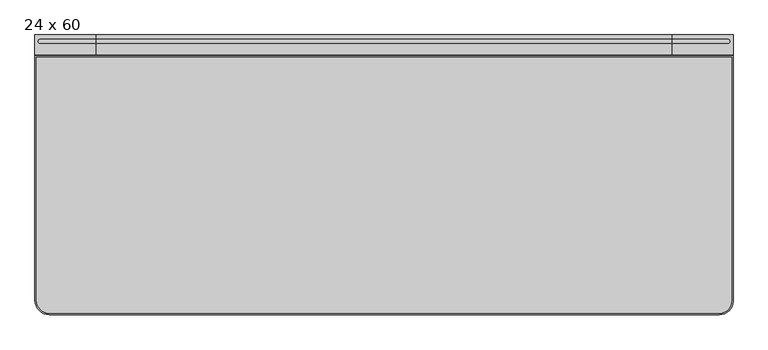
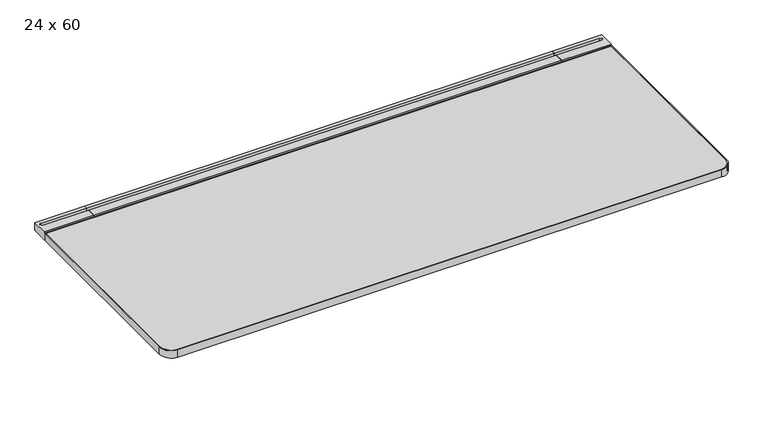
"""IFC4 building model written with IfcOpenShell, lengths in millimetres: furniture geometry, Steelcase - C Scape - Desking - Straight : 24 x 60."""

from ifc_helpers import new_model, si_unit, point, frame, frame_2d, origin, place, context, project, spatial, polyline, circle_curve, trimmed, segment, composite_curve, outline, extrude, faceted_brep, source, transform, mapped, element, save
from ifc_brep_helpers import plane_surface, cylinder_surface, revolved_surface, advanced_brep


def furniture_24_x_60_ce3a3083(model_context):
    return source(origin(), model_context, "Body", "SolidModel", [
        advanced_brep(
        [(1389.4562243, -45.3135132, 703.3768), (1389.4562243, -45.3135132, 722.4268341), (1389.4562243, -42.7750923, 722.4268341), (1389.4562243, -42.7750923, 725.932), (1389.4562243, -19.3290527, 725.932), (1389.4562243, -19.3290527, 713.486), (1389.4562243, -8.5111084, 713.486), (1389.4562243, -8.5111084, 725.932), (1389.4562243, 0.0, 725.932), (1389.4562243, 0.0, 705.1038636), (1389.4562243, -3.2278472, 705.1038636), (1389.4562243, -4.0331902, 703.3768), (1522.4760119, -45.3135132, 703.3768), (1522.4760119, -4.0331902, 703.3768), (1522.4760119, -3.2278472, 705.1038636), (1522.4760119, 0.0, 705.1038636), (1522.4760119, 0.0, 725.932), (1522.4760119, -42.7750923, 725.932), (1522.4760119, -42.7750923, 722.4268341), (1522.4760119, -45.3135132, 722.4268341), (1510.7139392, -8.5111084, 725.932), (1510.7139392, -19.3290527, 725.932), (1510.7139392, -19.3290527, 713.486), (1510.7139392, -8.5111084, 713.486)],
        [
            (0, 1),
            (1, 2),
            (2, 3),
            (3, 4),
            (4, 5),
            (5, 6),
            (6, 7),
            (7, 8),
            (8, 9),
            (9, 10),
            (10, 11),
            (11, 0),
            (12, 13),
            (13, 14),
            (14, 15),
            (15, 16),
            (16, 17),
            (17, 18),
            (18, 19),
            (19, 12),
            (11, 13),
            (12, 0),
            (10, 14),
            (9, 15),
            (8, 16),
            (7, 20),
            (20, 21, circle_curve(frame((1510.7139392, -13.9200806, 725.932), z_axis=(0.0, 0.0, -1.0), x_axis=(-1.0, 0.0, 0.0)), 5.4089722)),
            (21, 4),
            (3, 17),
            (2, 18),
            (1, 19),
            (5, 22),
            (22, 23, circle_curve(frame((1510.7139392, -13.9200806, 713.486), z_axis=(0.0, 0.0, 1.0), x_axis=(-1.0, 0.0, 0.0)), 5.4089722)),
            (23, 6),
            (23, 20),
            (22, 21),
        ],
        [
            plane_surface(frame((1389.4562243, -45.3135132, 703.3768), z_axis=(-1.0, 0.0, 0.0), x_axis=(0.0, 1.0, 0.0))),
            plane_surface(frame((1522.4760119, -45.3135132, 703.3768), z_axis=(1.0, 0.0, 0.0), x_axis=(0.0, -1.0, 0.0))),
            plane_surface(frame((1389.4562243, -45.3135132, 703.3768), z_axis=(0.0, 0.0, -1.0), x_axis=(1.0, 0.0, 0.0))),
            plane_surface(frame((1389.4562243, -4.0331902, 703.3768), z_axis=(0.0, 0.9063077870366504, -0.4226182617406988), x_axis=(1.0, 0.0, 0.0))),
            plane_surface(frame((1389.4562243, -3.2278472, 705.1038636), z_axis=(0.0, 0.0, -1.0), x_axis=(1.0, 0.0, 0.0))),
            plane_surface(frame((1389.4562243, 0.0, 705.1038636), z_axis=(0.0, 1.0, 0.0), x_axis=(1.0, 0.0, 0.0))),
            plane_surface(frame((1389.4562243, 0.0, 725.932), z_axis=(0.0, 0.0, 1.0), x_axis=(1.0, 0.0, 0.0))),
            plane_surface(frame((1389.4562243, -42.7750923, 725.932), z_axis=(0.0, -1.0, 0.0), x_axis=(1.0, 0.0, 0.0))),
            plane_surface(frame((1389.4562243, -42.7750923, 722.4268341), z_axis=(0.0, 0.0, 1.0), x_axis=(1.0, 0.0, 0.0))),
            plane_surface(frame((1389.4562243, -45.3135132, 722.4268341), z_axis=(0.0, -1.0, 0.0), x_axis=(1.0, 0.0, 0.0))),
            plane_surface(frame((1510.7139392, -8.5111084, 713.486), z_axis=(0.0, 0.0, 1.0), x_axis=(-1.0, 0.0, 0.0))),
            plane_surface(frame((1389.4562243, -8.5111084, 731.2180541), z_axis=(0.0, -1.0, 0.0), x_axis=(0.0, 0.0, -1.0))),
            revolved_surface(polyline([(1505.3049669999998, -13.9200806, 725.932), (1505.3049669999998, -13.9200806, 713.486)]), (1510.7139392, -13.9200806, 713.486), (0.0, 0.0, 1.0)),
            plane_surface(frame((1510.7139392, -19.3290527, 731.2180541), z_axis=(0.0, 1.0, 0.0), x_axis=(0.0, 0.0, -1.0))),
        ],
        [
            (0, [[1, 2, 3, 4, 5, 6, 7, 8, 9, 10, 11, 12]]),
            (1, [[13, 14, 15, 16, 17, 18, 19, 20]]),
            (2, [[21, -13, 22, -12]]),
            (3, [[23, -14, -21, -11]]),
            (4, [[24, -15, -23, -10]]),
            (5, [[25, -16, -24, -9]]),
            (6, [[-25, -8, 26, 27, 28, -4, 29, -17]]),
            (7, [[30, -18, -29, -3]]),
            (8, [[31, -19, -30, -2]]),
            (9, [[-22, -20, -31, -1]]),
            (10, [[-6, 32, 33, 34]]),
            (11, [[35, -26, -7, -34]]),
            (12, [[36, -27, -35, -33]]),
            (13, [[-5, -28, -36, -32]]),
        ],
    ),
        faceted_brep([(1503.4252487, -565.0752923, 700.7093833), (1503.4252487, -565.0752923, 703.3768), (1389.4562243, -565.0752923, 703.3768), (1389.4562243, -565.0752923, 679.3263935), (1405.0903818, -565.0752923, 679.3263935), (1407.710924, -565.0752923, 693.4200291), (1489.1501391, -565.0752923, 693.4200291), (1503.4252487, -4.0331902, 700.7093833), (1489.1501391, -4.0331902, 693.4200291), (1407.710924, -4.0331902, 693.4200291), (1395.8046772, -4.0331902, 629.3866), (1389.4562243, -4.0331902, 629.3866), (1389.4562243, -4.0331902, 703.3768), (1503.4252487, -4.0331902, 703.3768), (1402.9251068, -376.5599397, 667.6812472), (1395.8046772, -364.1172546, 629.3866), (1389.4562243, -364.1172546, 629.3866), (1389.4562243, -376.5599397, 667.6812472)], [[[0, 1, 2, 3, 4, 5, 6]], [[7, 8, 9, 10, 11, 12, 13]], [[6, 8, 7, 0]], [[5, 9, 8, 6]], [[9, 5, 4, 14, 15, 10]], [[10, 15, 16, 11]], [[11, 16, 17, 3, 2, 12]], [[1, 13, 12, 2]], [[0, 7, 13, 1]], [[14, 4, 3, 17]], [[17, 16, 15, 14]]]),
        extrude(outline(composite_curve([segment(polyline([(-293.5216187, 657.3775839), (-559.0022133, 680.1371551)]), True, "CONTINUOUS"), segment(trimmed(circle_curve(frame_2d((-558.7581271, 682.9843154)), 2.8576039), [point((-559.0022133, 680.1371551))], [point((-561.5383043, 682.3236226))], False, "CARTESIAN"), True, "CONTINUOUS"), segment(polyline([(-561.5383043, 682.3236226), (-566.0887542, 701.4717905), (-557.8334441, 701.4717905), (-557.8334441, 703.3768), (-442.6683806, 703.3768), (-442.6683806, 696.3917953), (-318.2108611, 696.3917953), (-318.2108611, 703.3768), (-293.5216187, 703.3768), (-293.5216187, 657.3775839)]), True, "CONTINUOUS")], self_intersect=False)), frame((725.424, 0.0, 0.0), z_axis=(1.0, 0.0, 0.0), x_axis=(0.0, 1.0, 0.0)), (0.0, 0.0, 1.0), 73.152),
        advanced_brep(
        [(134.6072876, -45.3135132, 703.3768), (134.6072876, -4.0331902, 703.3768), (134.6072876, -3.2278472, 705.1038636), (134.6072876, 0.0, 705.1038636), (134.6072876, 0.0, 725.932), (134.6072876, -8.5111084, 725.932), (134.6072876, -8.5111084, 713.486), (134.6072876, -19.3290527, 713.486), (134.6072876, -19.3290527, 725.932), (134.6072876, -42.7750923, 725.932), (134.6072876, -42.7750923, 722.4268341), (134.6072876, -45.3135132, 722.4268341), (1.5875, -45.3135132, 703.3768), (1.5875, -45.3135132, 722.4268341), (1.5875, -42.7750923, 722.4268341), (1.5875, -42.7750923, 725.932), (1.5875, 0.0, 725.932), (1.5875, 0.0, 705.1038636), (1.5875, -3.2278472, 705.1038636), (1.5875, -4.0331902, 703.3768), (13.3495728, -19.3290527, 725.932), (13.3495728, -8.5111084, 725.932), (13.3495728, -8.5111084, 713.486), (13.3495728, -19.3290527, 713.486)],
        [
            (0, 1),
            (1, 2),
            (2, 3),
            (3, 4),
            (4, 5),
            (5, 6),
            (6, 7),
            (7, 8),
            (8, 9),
            (9, 10),
            (10, 11),
            (11, 0),
            (12, 13),
            (13, 14),
            (14, 15),
            (15, 16),
            (16, 17),
            (17, 18),
            (18, 19),
            (19, 12),
            (0, 12),
            (19, 1),
            (18, 2),
            (17, 3),
            (16, 4),
            (15, 9),
            (8, 20),
            (20, 21, circle_curve(frame((13.3495728, -13.9200806, 725.932), z_axis=(0.0, 0.0, -1.0), x_axis=(1.0, 0.0, 0.0)), 5.4089722)),
            (21, 5),
            (14, 10),
            (13, 11),
            (6, 22),
            (22, 23, circle_curve(frame((13.3495728, -13.9200806, 713.486), z_axis=(0.0, 0.0, 1.0), x_axis=(1.0, 0.0, 0.0)), 5.4089722)),
            (23, 7),
            (21, 22),
            (20, 23),
        ],
        [
            plane_surface(frame((134.6072876, -45.3135132, 703.3768), z_axis=(1.0, 0.0, 0.0), x_axis=(0.0, 1.0, 0.0))),
            plane_surface(frame((1.5875, -45.3135132, 703.3768), z_axis=(-1.0, 0.0, 0.0), x_axis=(0.0, -1.0, 0.0))),
            plane_surface(frame((134.6072876, -45.3135132, 703.3768), z_axis=(0.0, 0.0, -1.0), x_axis=(-1.0, 0.0, 0.0))),
            plane_surface(frame((134.6072876, -4.0331902, 703.3768), z_axis=(0.0, 0.9063077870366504, -0.4226182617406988), x_axis=(-1.0, 0.0, 0.0))),
            plane_surface(frame((134.6072876, -3.2278472, 705.1038636), z_axis=(0.0, 0.0, -1.0), x_axis=(-1.0, 0.0, 0.0))),
            plane_surface(frame((134.6072876, 0.0, 705.1038636), z_axis=(0.0, 1.0, 0.0), x_axis=(-1.0, 0.0, 0.0))),
            plane_surface(frame((134.6072876, 0.0, 725.932), z_axis=(0.0, 0.0, 1.0), x_axis=(-1.0, 0.0, 0.0))),
            plane_surface(frame((134.6072876, -42.7750923, 725.932), z_axis=(0.0, -1.0, 0.0), x_axis=(-1.0, 0.0, 0.0))),
            plane_surface(frame((134.6072876, -42.7750923, 722.4268341), z_axis=(0.0, 0.0, 1.0), x_axis=(-1.0, 0.0, 0.0))),
            plane_surface(frame((134.6072876, -45.3135132, 722.4268341), z_axis=(0.0, -1.0, 0.0), x_axis=(-1.0, 0.0, 0.0))),
            plane_surface(frame((13.3495728, -8.5111084, 713.486), z_axis=(0.0, 0.0, 1.0), x_axis=(1.0, 0.0, 0.0))),
            plane_surface(frame((134.6072876, -8.5111084, 731.2180541), z_axis=(0.0, -1.0, 0.0), x_axis=(0.0, 0.0, -1.0))),
            revolved_surface(polyline([(18.758545, -13.9200806, 725.932), (18.758545, -13.9200806, 713.486)]), (13.3495728, -13.9200806, 713.486), (0.0, 0.0, 1.0)),
            plane_surface(frame((13.3495728, -19.3290527, 731.2180541), z_axis=(0.0, 1.0, 0.0), x_axis=(0.0, 0.0, -1.0))),
        ],
        [
            (0, [[1, 2, 3, 4, 5, 6, 7, 8, 9, 10, 11, 12]]),
            (1, [[13, 14, 15, 16, 17, 18, 19, 20]]),
            (2, [[-1, 21, -20, 22]]),
            (3, [[-2, -22, -19, 23]]),
            (4, [[-3, -23, -18, 24]]),
            (5, [[-4, -24, -17, 25]]),
            (6, [[-16, 26, -9, 27, 28, 29, -5, -25]]),
            (7, [[-10, -26, -15, 30]]),
            (8, [[-11, -30, -14, 31]]),
            (9, [[-12, -31, -13, -21]]),
            (10, [[32, 33, 34, -7]]),
            (11, [[-32, -6, -29, 35]]),
            (12, [[-33, -35, -28, 36]]),
            (13, [[-34, -36, -27, -8]]),
        ],
    ),
        faceted_brep([(20.6382632, -565.0752923, 700.7093833), (34.9133728, -565.0752923, 693.4200291), (116.3525879, -565.0752923, 693.4200291), (118.9731301, -565.0752923, 679.3263935), (134.6072876, -565.0752923, 679.3263935), (134.6072876, -565.0752923, 703.3768), (20.6382632, -565.0752923, 703.3768), (20.6382632, -4.0331902, 700.7093833), (20.6382632, -4.0331902, 703.3768), (134.6072876, -4.0331902, 703.3768), (134.6072876, -4.0331902, 629.3866), (128.2588347, -4.0331902, 629.3866), (116.3525879, -4.0331902, 693.4200291), (34.9133728, -4.0331902, 693.4200291), (128.2588347, -364.1172546, 629.3866), (121.1384051, -376.5599397, 667.6812472), (134.6072876, -364.1172546, 629.3866), (134.6072876, -376.5599397, 667.6812472)], [[[0, 1, 2, 3, 4, 5, 6]], [[7, 8, 9, 10, 11, 12, 13]], [[1, 0, 7, 13]], [[2, 1, 13, 12]], [[12, 11, 14, 15, 3, 2]], [[11, 10, 16, 14]], [[10, 9, 5, 4, 17, 16]], [[6, 5, 9, 8]], [[0, 6, 8, 7]], [[15, 17, 4, 3]], [[17, 15, 14, 16]]]),
        extrude(outline(polyline([(-8.5111084, 725.932), (0.0, 725.932), (0.0, 705.1038636), (-3.2278472, 705.1038636), (-4.0331902, 703.3768), (-45.3135132, 703.3768), (-45.3135132, 722.4268341), (-42.7750923, 722.4268341), (-42.7750923, 725.932), (-19.3290527, 725.932), (-19.3290527, 713.486), (-8.5111084, 713.486), (-8.5111084, 725.932)])), frame((134.6072876, 0.0, 0.0), z_axis=(1.0, 0.0, 0.0), x_axis=(0.0, 1.0, 0.0)), (0.0, 0.0, 1.0), 1254.8489367),
        extrude(outline(polyline([(134.6072876, -293.5216187), (134.6072876, -4.0331902), (1389.4562243, -4.0331902), (1389.4562243, -293.5216187), (134.6072876, -293.5216187)])), frame((0.0, 0.0, 629.3866), z_axis=(0.0, 0.0, 1.0), x_axis=(1.0, 0.0, 0.0)), (0.0, 0.0, 1.0), 73.9902),
        advanced_brep(
        [(4.6355, -48.3660689, 723.9), (4.6355, -577.85, 723.9), (33.3375, -606.5490234, 723.9), (1492.6737019, -606.5490234, 723.9), (1519.4273608, -579.7953645, 723.9), (1519.4273608, -48.3660689, 723.9), (4.6355, -48.3660689, 703.3768), (1519.4273608, -48.3660689, 703.3768), (1519.4273608, -579.7953645, 703.3768), (1492.6737019, -606.5490234, 703.3768), (33.3375, -606.5490234, 703.3768), (4.6384766, -577.85, 703.3768)],
        [
            (0, 1),
            (1, 2, circle_curve(frame((33.3375, -577.85, 723.9), z_axis=(0.0, 0.0, 1.0), x_axis=(1.0, 0.0, 0.0)), 28.6990234)),
            (2, 3),
            (3, 4, circle_curve(frame((1492.6737019, -579.7953645, 723.9), z_axis=(0.0, 0.0, 1.0), x_axis=(1.0, 0.0, 0.0)), 26.7536589)),
            (4, 5),
            (5, 0),
            (6, 7),
            (7, 8),
            (8, 9, circle_curve(frame((1492.6737019, -579.7953645, 703.3768), z_axis=(0.0, 0.0, -1.0), x_axis=(1.0, 0.0, 0.0)), 26.7536589)),
            (9, 10),
            (10, 11, circle_curve(frame((33.3375, -577.85, 703.3768), z_axis=(0.0, 0.0, -1.0), x_axis=(1.0, 0.0, 0.0)), 28.6990234)),
            (11, 6),
            (0, 6),
            (11, 1),
            (10, 2),
            (9, 3),
            (8, 4),
            (7, 5),
        ],
        [
            plane_surface(frame((4.6355, -48.3660689, 723.9), z_axis=(0.0, 0.0, 1.0), x_axis=(0.0, -1.0, 0.0))),
            plane_surface(frame((4.6355, -48.3660689, 703.3768), z_axis=(0.0, 0.0, -1.0), x_axis=(0.0, 1.0, 0.0))),
            plane_surface(frame((4.6355, -48.3660689, 723.9), z_axis=(-1.0, 0.0, 0.0), x_axis=(0.0, 0.0, -1.0))),
            cylinder_surface(frame((33.3375, -577.85, 703.3768), z_axis=(0.0, 0.0, 1.0), x_axis=(1.0, 0.0, 0.0)), 28.6990234),
            plane_surface(frame((33.3375, -606.5490234, 723.9), z_axis=(0.0, -1.0, 0.0), x_axis=(0.0, 0.0, -1.0))),
            cylinder_surface(frame((1492.6737019, -579.7953645, 703.3768), z_axis=(0.0, 0.0, 1.0), x_axis=(1.0, 0.0, 0.0)), 26.7536589),
            plane_surface(frame((1519.4273608, -579.7953645, 723.9), z_axis=(1.0, 0.0, 0.0), x_axis=(0.0, 0.0, -1.0))),
            plane_surface(frame((1519.4273608, -48.3660689, 723.9), z_axis=(0.0, 1.0, 0.0), x_axis=(0.0, 0.0, -1.0))),
        ],
        [
            (0, [[1, 2, 3, 4, 5, 6]]),
            (1, [[7, 8, 9, 10, 11, 12]]),
            (2, [[-1, 13, -12, 14]]),
            (3, [[-2, -14, -11, 15]]),
            (4, [[-3, -15, -10, 16]]),
            (5, [[-4, -16, -9, 17]]),
            (6, [[-5, -17, -8, 18]]),
            (7, [[-6, -18, -7, -13]]),
        ],
    ),
        extrude(outline(composite_curve([segment(trimmed(circle_curve(frame_2d((33.3375, -577.85)), 31.75), [point((33.3375, -609.6))], [point((1.5875, -577.85))], False, "CARTESIAN"), True, "CONTINUOUS"), segment(polyline([(1.5875, -577.85), (1.5875, -45.3150923), (1522.476, -45.3150923), (1522.476, -579.7250374)]), True, "CONTINUOUS"), segment(trimmed(circle_curve(frame_2d((1492.6010374, -579.7250374)), 29.8749626), [point((1522.476, -579.7250374))], [point((1492.6010374, -609.6))], False, "CARTESIAN"), True, "CONTINUOUS"), segment(polyline([(1492.6010374, -609.6), (33.3375, -609.6)]), True, "CONTINUOUS")], self_intersect=False), holes=[composite_curve([segment(polyline([(1519.4250234, -48.3660689), (4.6384766, -48.3660689), (4.6384766, -577.85)]), True, "CONTINUOUS"), segment(trimmed(circle_curve(frame_2d((33.3375, -577.85)), 28.6990234), [point((4.6384766, -577.85))], [point((33.3375, -606.5490234))], True, "CARTESIAN"), True, "CONTINUOUS"), segment(polyline([(33.3375, -606.5490234), (1492.6010374, -606.5490234)]), True, "CONTINUOUS"), segment(trimmed(circle_curve(frame_2d((1492.6010374, -579.7250374)), 26.8239861), [point((1492.6010374, -606.5490234))], [point((1519.4250234, -579.7250374))], True, "CARTESIAN"), True, "CONTINUOUS"), segment(polyline([(1519.4250234, -579.7250374), (1519.4250234, -48.3660689)]), True, "CONTINUOUS")], self_intersect=False)]), frame((0.0, 0.0, 703.3768), z_axis=(0.0, 0.0, 1.0), x_axis=(1.0, 0.0, 0.0)), (0.0, 0.0, 1.0), 20.5232),
    ])


if __name__ == "__main__":
    model = new_model("IFC4")
    model_context = context("Model", 3, world=origin())
    ifc_project = project(units=[si_unit("LENGTHUNIT", "METRE", prefix="MILLI")], contexts=[model_context])
    site = spatial("IfcSite", under=ifc_project)
    building = spatial("IfcBuilding", under=site)
    placement = place(None, origin())
    furniture_24_x_60_shape = furniture_24_x_60_ce3a3083(model_context)
    element("IfcFurniture", 1, ObjectType="Steelcase - C Scape - Desking - Straight : 24 x 60", at=placement, inside=building, context=model_context, shape_type="MappedRepresentation", body=[
        mapped(furniture_24_x_60_shape, transform((0.0, 0.0, 0.0), x_axis=(1.0, 0.0, 0.0), y_axis=(0.0, 1.0, 0.0), z_axis=(0.0, 0.0, 1.0))),
    ])
    save(model, "model.ifc")
